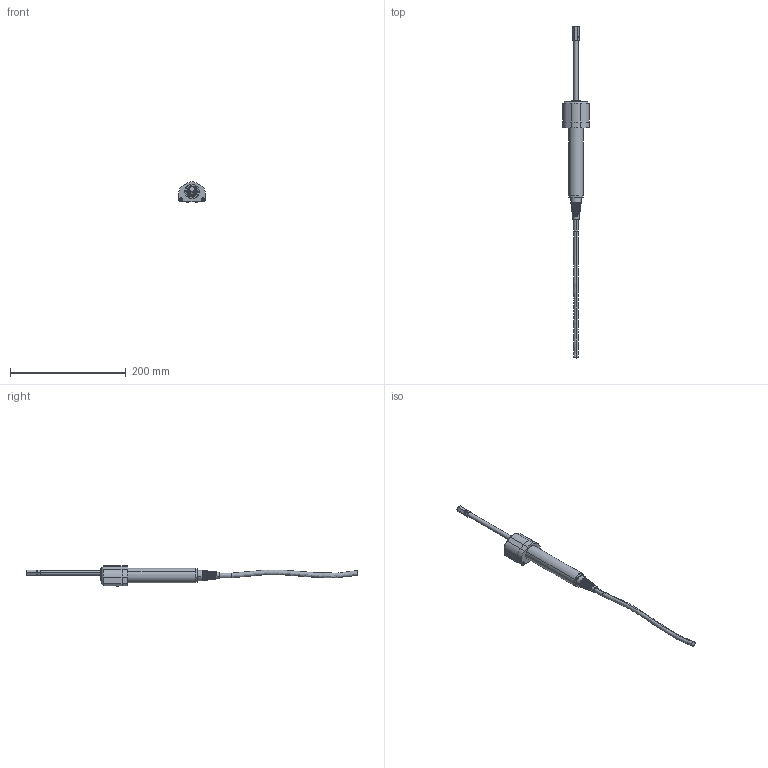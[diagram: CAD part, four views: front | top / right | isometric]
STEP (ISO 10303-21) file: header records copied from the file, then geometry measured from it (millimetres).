
FILE_DESCRIPTION (( 'STEP AP203' ), '1' );
FILE_NAME ('NX1000炵蹈芛窒.STEP', '2026-09-02T01:04:58', ( '' ), ( '' ), 'SwSTEP 2.0', 'SolidWorks 2024', '' );
FILE_SCHEMA (( 'CONFIG_CONTROL_DESIGN' ));
Products named in the file (1): NX1000系列头部
Bounding box: 46 x 572.54 x 35.24 mm (x, y, z)
Volume: 137753.1 mm3; surface area: 40630.7 mm2
Topology: 12 solids, 13 shells, 1166 faces, 3182 edges, 2100 vertices
Faces by surface type: plane 643, bspline 340, cylinder 122, cone 57, sphere 2, torus 2
Entity records: 63423 total; most frequent: CARTESIAN_POINT 36256, ORIENTED_EDGE 6356, DIRECTION 4260, EDGE_CURVE 3178, LINE 2136, VECTOR 2136, VERTEX_POINT 2100, EDGE_LOOP 1246
